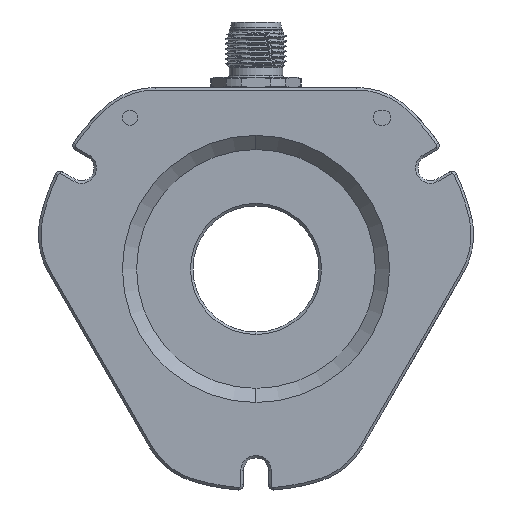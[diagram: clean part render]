
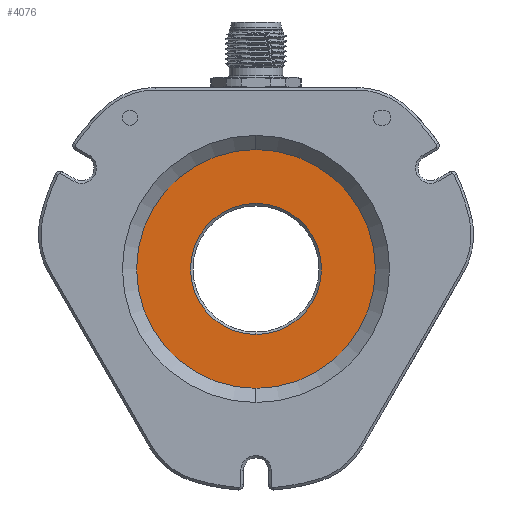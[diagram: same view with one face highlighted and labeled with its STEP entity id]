
A CAD part, front view. The second image highlights one B-rep face of the part: STEP entity #4076.
In plain terms, the highlighted planar face has unit normal (0, -1, 0).
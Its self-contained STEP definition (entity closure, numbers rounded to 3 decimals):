
#3438 = DIRECTION ( 'NONE',  ( 0., -1., 0. ) ) ;
#3615 = VERTEX_POINT ( 'NONE', #6286 ) ;
#4076 = ADVANCED_FACE ( 'NONE', ( #9751, #37676 ), #26112, .T. ) ;
#6286 = CARTESIAN_POINT ( 'NONE',  ( 0., 2.8, -23.7 ) ) ;
#6980 = CARTESIAN_POINT ( 'NONE',  ( 0., 2.8, 13. ) ) ;
#7140 = CARTESIAN_POINT ( 'NONE',  ( 0., 2.8, 0. ) ) ;
#9050 = DIRECTION ( 'NONE',  ( 0., 0., -1. ) ) ;
#9751 = FACE_BOUND ( 'NONE', #31218, .T. ) ;
#10194 = CIRCLE ( 'NONE', #56571, 23.7 ) ;
#13008 = EDGE_LOOP ( 'NONE', ( #33800, #68465 ) ) ;
#20225 = VERTEX_POINT ( 'NONE', #33157 ) ;
#20629 = AXIS2_PLACEMENT_3D ( 'NONE', #69426, #34419, #9050 ) ;
#23923 = EDGE_CURVE ( 'NONE', #36926, #20225, #68143, .T. ) ;
#26112 = PLANE ( 'NONE',  #44554 ) ;
#31218 = EDGE_LOOP ( 'NONE', ( #59430, #72058 ) ) ;
#31474 = EDGE_CURVE ( 'NONE', #73052, #3615, #60831, .T. ) ;
#31692 = CARTESIAN_POINT ( 'NONE',  ( 0., 2.8, 0. ) ) ;
#33157 = CARTESIAN_POINT ( 'NONE',  ( 0., 2.8, -13. ) ) ;
#33800 = ORIENTED_EDGE ( 'NONE', *, *, #49366, .T. ) ;
#34419 = DIRECTION ( 'NONE',  ( 0., 1., 0. ) ) ;
#36926 = VERTEX_POINT ( 'NONE', #6980 ) ;
#37676 = FACE_OUTER_BOUND ( 'NONE', #13008, .T. ) ;
#39330 = CARTESIAN_POINT ( 'NONE',  ( 0., 2.8, 0. ) ) ;
#39595 = AXIS2_PLACEMENT_3D ( 'NONE', #7140, #47345, #48072 ) ;
#40419 = DIRECTION ( 'NONE',  ( 0., -1., 0. ) ) ;
#43219 = DIRECTION ( 'NONE',  ( 0., -1., 0. ) ) ;
#44554 = AXIS2_PLACEMENT_3D ( 'NONE', #31692, #3438, #48885 ) ;
#47345 = DIRECTION ( 'NONE',  ( 0., 1., 0. ) ) ;
#48072 = DIRECTION ( 'NONE',  ( 0., 0., -1. ) ) ;
#48832 = CARTESIAN_POINT ( 'NONE',  ( 0., 2.8, 0. ) ) ;
#48885 = DIRECTION ( 'NONE',  ( 0., 0., -1. ) ) ;
#49366 = EDGE_CURVE ( 'NONE', #3615, #73052, #10194, .T. ) ;
#52441 = CARTESIAN_POINT ( 'NONE',  ( 0., 2.8, 23.7 ) ) ;
#56450 = DIRECTION ( 'NONE',  ( 0., 0., -1. ) ) ;
#56571 = AXIS2_PLACEMENT_3D ( 'NONE', #39330, #40419, #56450 ) ;
#57283 = AXIS2_PLACEMENT_3D ( 'NONE', #48832, #43219, #65939 ) ;
#59430 = ORIENTED_EDGE ( 'NONE', *, *, #67440, .T. ) ;
#60831 = CIRCLE ( 'NONE', #57283, 23.7 ) ;
#63439 = CIRCLE ( 'NONE', #20629, 13. ) ;
#65939 = DIRECTION ( 'NONE',  ( 0., 0., -1. ) ) ;
#67440 = EDGE_CURVE ( 'NONE', #20225, #36926, #63439, .T. ) ;
#68143 = CIRCLE ( 'NONE', #39595, 13. ) ;
#68465 = ORIENTED_EDGE ( 'NONE', *, *, #31474, .T. ) ;
#69426 = CARTESIAN_POINT ( 'NONE',  ( 0., 2.8, 0. ) ) ;
#72058 = ORIENTED_EDGE ( 'NONE', *, *, #23923, .T. ) ;
#73052 = VERTEX_POINT ( 'NONE', #52441 ) ;
